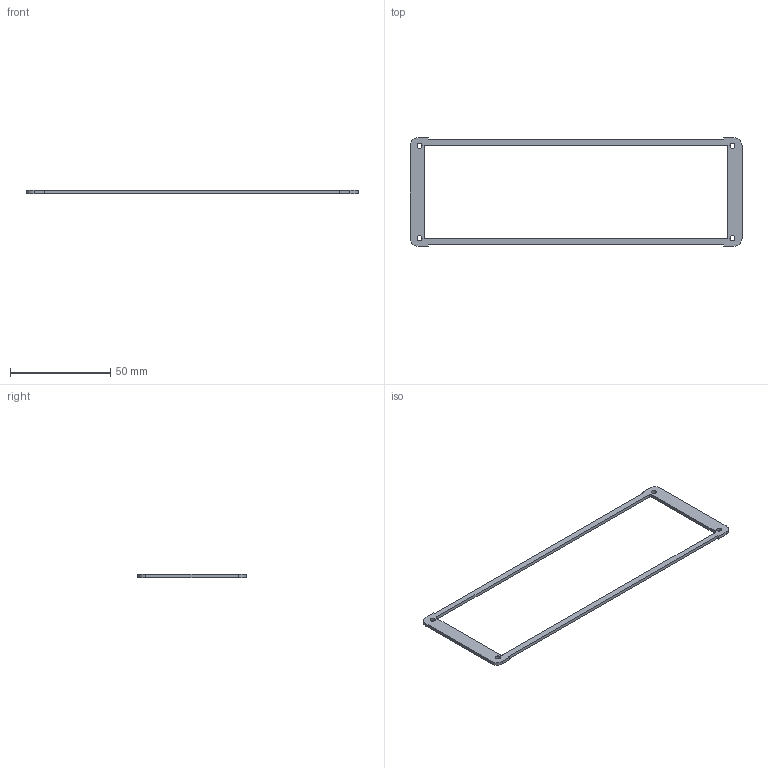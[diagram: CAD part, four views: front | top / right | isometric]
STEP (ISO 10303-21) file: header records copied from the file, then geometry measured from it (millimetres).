
FILE_DESCRIPTION(/* description */ (''),/* implementation_level */ '2;1');
FILE_NAME(/* name */ '1457TPG-10.stp',/* time_stamp */ '2024-09-03T11:37:22-04:00',/* author */ ('tfoster'),/* organization */ (''),/* preprocessor_version */ 'ST-DEVELOPER v20',/* originating_system */ 'Autodesk Inventor 2024',/* authorisation */ '');
FILE_SCHEMA (('AUTOMOTIVE_DESIGN { 1 0 10303 214 3 1 1 }'));
Length unit declared in the file: millimetre
Products named in the file (1): 80mm Gasket
Bounding box: 165.5 x 54 x 1.57 mm (x, y, z)
Volume: 2580.3 mm3; surface area: 4632.6 mm2
Topology: 1 solids, 1 shells, 30 faces, 84 edges, 56 vertices
Faces by surface type: plane 18, cylinder 12
Full cylindrical faces by diameter (mm): 2.5 x4
Entity records: 1035 total; most frequent: CARTESIAN_POINT 171, DIRECTION 170, ORIENTED_EDGE 168, EDGE_CURVE 84, LINE 60, VECTOR 60, VERTEX_POINT 56, AXIS2_PLACEMENT_3D 55
